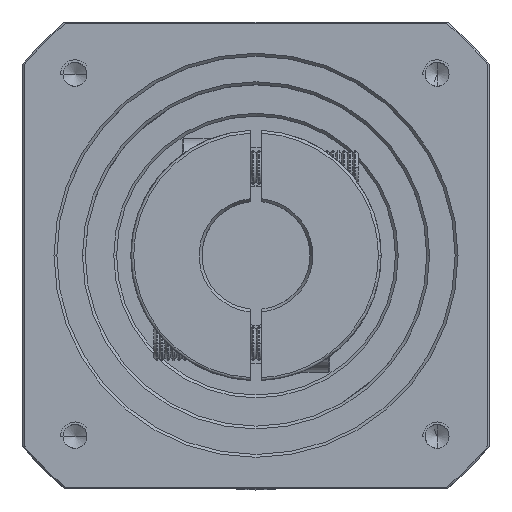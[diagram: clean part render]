
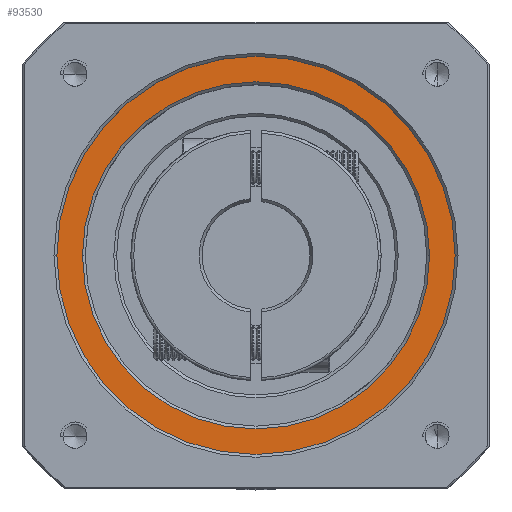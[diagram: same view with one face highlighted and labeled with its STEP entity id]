
A CAD part, top view. The second image highlights one B-rep face of the part: STEP entity #93530.
In plain terms, the highlighted planar face has unit normal (0, 0, 1).
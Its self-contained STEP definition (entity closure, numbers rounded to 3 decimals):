
#1706 = AXIS2_PLACEMENT_3D ( 'NONE', #109547, #53759, #118926 ) ;
#11377 = CIRCLE ( 'NONE', #1706, 30.5 ) ;
#12160 = FACE_BOUND ( 'NONE', #28401, .T. ) ;
#13360 = ORIENTED_EDGE ( 'NONE', *, *, #80359, .T. ) ;
#16992 = CIRCLE ( 'NONE', #39160, 35. ) ;
#17417 = CARTESIAN_POINT ( 'NONE',  ( -86.36, 19.655, 17.325 ) ) ;
#25880 = CARTESIAN_POINT ( 'NONE',  ( -86.36, 19.655, 17.325 ) ) ;
#26645 = CARTESIAN_POINT ( 'NONE',  ( -121.36, 19.655, 17.325 ) ) ;
#26861 = DIRECTION ( 'NONE',  ( 1., 0., 0. ) ) ;
#28401 = EDGE_LOOP ( 'NONE', ( #13360, #73046 ) ) ;
#29642 = ORIENTED_EDGE ( 'NONE', *, *, #85696, .T. ) ;
#35220 = DIRECTION ( 'NONE',  ( 1., 0., 0. ) ) ;
#35531 = EDGE_LOOP ( 'NONE', ( #29642, #92130 ) ) ;
#36304 = CARTESIAN_POINT ( 'NONE',  ( -116.86, 19.655, 17.325 ) ) ;
#37038 = FACE_OUTER_BOUND ( 'NONE', #35531, .T. ) ;
#39160 = AXIS2_PLACEMENT_3D ( 'NONE', #25880, #90827, #35220 ) ;
#40540 = CARTESIAN_POINT ( 'NONE',  ( -86.36, 19.655, 17.325 ) ) ;
#44433 = AXIS2_PLACEMENT_3D ( 'NONE', #109213, #53438, #118604 ) ;
#49889 = DIRECTION ( 'NONE',  ( 1., 0., 0. ) ) ;
#52930 = EDGE_CURVE ( 'NONE', #74888, #74870, #100681, .T. ) ;
#53438 = DIRECTION ( 'NONE',  ( 0., 0., 1. ) ) ;
#53759 = DIRECTION ( 'NONE',  ( 0., 0., -1. ) ) ;
#57449 = VERTEX_POINT ( 'NONE', #36304 ) ;
#61040 = EDGE_CURVE ( 'NONE', #57449, #111565, #11377, .T. ) ;
#62195 = CARTESIAN_POINT ( 'NONE',  ( -55.86, 19.655, 17.325 ) ) ;
#64255 = CIRCLE ( 'NONE', #106809, 30.5 ) ;
#68165 = PLANE ( 'NONE',  #92437 ) ;
#73046 = ORIENTED_EDGE ( 'NONE', *, *, #61040, .T. ) ;
#74870 = VERTEX_POINT ( 'NONE', #99392 ) ;
#74888 = VERTEX_POINT ( 'NONE', #26645 ) ;
#80359 = EDGE_CURVE ( 'NONE', #111565, #57449, #64255, .T. ) ;
#82476 = DIRECTION ( 'NONE',  ( 0., 0., -1. ) ) ;
#85696 = EDGE_CURVE ( 'NONE', #74870, #74888, #16992, .T. ) ;
#90827 = DIRECTION ( 'NONE',  ( 0., 0., 1. ) ) ;
#92130 = ORIENTED_EDGE ( 'NONE', *, *, #52930, .T. ) ;
#92437 = AXIS2_PLACEMENT_3D ( 'NONE', #40540, #105663, #49889 ) ;
#93530 = ADVANCED_FACE ( 'NONE', ( #37038, #12160 ), #68165, .T. ) ;
#99392 = CARTESIAN_POINT ( 'NONE',  ( -51.36, 19.655, 17.325 ) ) ;
#100681 = CIRCLE ( 'NONE', #44433, 35. ) ;
#105663 = DIRECTION ( 'NONE',  ( 0., 0., 1. ) ) ;
#106809 = AXIS2_PLACEMENT_3D ( 'NONE', #17417, #82476, #26861 ) ;
#109213 = CARTESIAN_POINT ( 'NONE',  ( -86.36, 19.655, 17.325 ) ) ;
#109547 = CARTESIAN_POINT ( 'NONE',  ( -86.36, 19.655, 17.325 ) ) ;
#111565 = VERTEX_POINT ( 'NONE', #62195 ) ;
#118604 = DIRECTION ( 'NONE',  ( 1., 0., 0. ) ) ;
#118926 = DIRECTION ( 'NONE',  ( 1., 0., 0. ) ) ;
